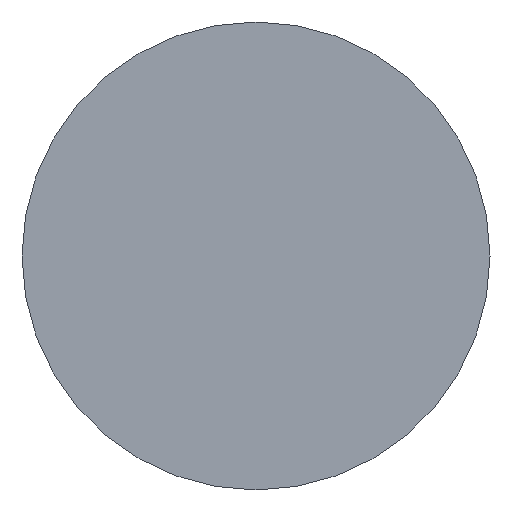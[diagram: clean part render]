
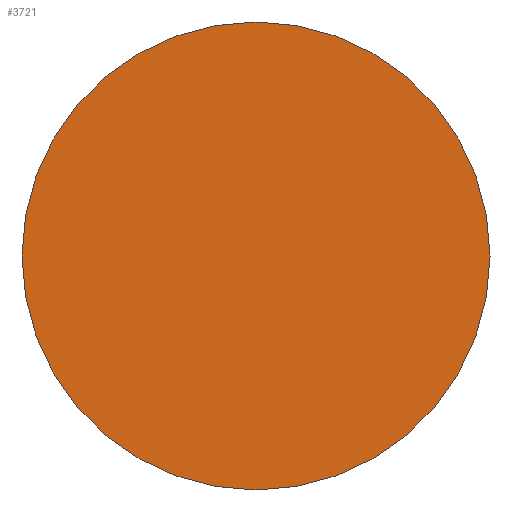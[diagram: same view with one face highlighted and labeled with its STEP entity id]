
A CAD part, left-side view. The second image highlights one B-rep face of the part: STEP entity #3721.
In plain terms, the highlighted planar face has unit normal (-1, 0, 0).
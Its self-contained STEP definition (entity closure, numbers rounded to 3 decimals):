
#3721 = ADVANCED_FACE ( 'NONE', ( #7245 ), #7244, .T. ) ;
#3722 = EDGE_LOOP ( 'NONE', ( #3723, #3724 ) ) ;
#3723 = ORIENTED_EDGE ( 'NONE', *, *, #3836, .F. ) ;
#3724 = ORIENTED_EDGE ( 'NONE', *, *, #3838, .F. ) ;
#3800 = VERTEX_POINT ( 'NONE', #7571 ) ;
#3836 = EDGE_CURVE ( 'NONE', #3837, #3800, #7562, .T. ) ;
#3837 = VERTEX_POINT ( 'NONE', #7557 ) ;
#3838 = EDGE_CURVE ( 'NONE', #3800, #3837, #7317, .T. ) ;
#7240 = DIRECTION ( 'NONE',  ( 0., 0., -1. ) ) ;
#7241 = DIRECTION ( 'NONE',  ( -1., 0., 0. ) ) ;
#7242 = CARTESIAN_POINT ( 'NONE',  ( -25.9, 0., 19.1 ) ) ;
#7243 = AXIS2_PLACEMENT_3D ( 'NONE', #7242, #7241, #7240 ) ;
#7244 = PLANE ( 'NONE',  #7243 ) ;
#7245 = FACE_OUTER_BOUND ( 'NONE', #3722, .T. ) ;
#7316 = DIRECTION ( 'NONE',  ( 1., 0., 0. ) ) ;
#7317 = CIRCLE ( 'NONE', #7390, 19.1 ) ;
#7319 = CARTESIAN_POINT ( 'NONE',  ( -25.9, 0., 0. ) ) ;
#7320 = DIRECTION ( 'NONE',  ( 0., 0., 1. ) ) ;
#7390 = AXIS2_PLACEMENT_3D ( 'NONE', #7319, #7316, #7320 ) ;
#7557 = CARTESIAN_POINT ( 'NONE',  ( -25.9, 0., 19.1 ) ) ;
#7558 = DIRECTION ( 'NONE',  ( 0., 0., 1. ) ) ;
#7559 = DIRECTION ( 'NONE',  ( 1., 0., 0. ) ) ;
#7560 = CARTESIAN_POINT ( 'NONE',  ( -25.9, 0., 0. ) ) ;
#7561 = AXIS2_PLACEMENT_3D ( 'NONE', #7560, #7559, #7558 ) ;
#7562 = CIRCLE ( 'NONE', #7561, 19.1 ) ;
#7571 = CARTESIAN_POINT ( 'NONE',  ( -25.9, 0., -19.1 ) ) ;
